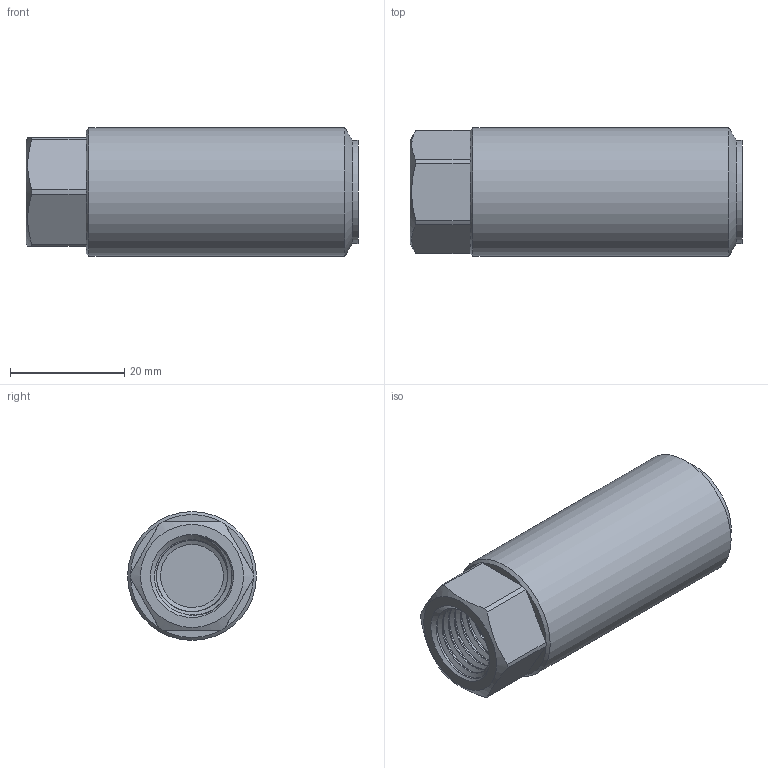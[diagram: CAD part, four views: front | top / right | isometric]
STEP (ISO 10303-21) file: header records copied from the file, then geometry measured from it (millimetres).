
FILE_DESCRIPTION(/* description */ (''),/* implementation_level */ '2;1');
FILE_NAME(/* name */ 'S6A管式单向阀.prt.stp',/* time_stamp */ '2022-03-30T19:14:09+08:00',/* author */ (''),/* organization */ (''),/* preprocessor_version */ 'ST-DEVELOPER v16.7',/* originating_system */ 'SIEMENS PLM Software NX 12.0',/* authorisation */ '');
FILE_SCHEMA (('AUTOMOTIVE_DESIGN { 1 0 10303 214 3 1 1 1 }'));
Length unit declared in the file: millimetre
Products named in the file (1): S6A管式单向阀
Bounding box: 58 x 22.5 x 22.5 mm (x, y, z)
Volume: 17526.7 mm3; surface area: 6569 mm2
Topology: 1 solids, 1 shells, 43 faces, 102 edges, 63 vertices
Faces by surface type: plane 18, cylinder 12, cone 7, bspline 6
Full cylindrical faces by diameter (mm): 18 x1, 22.5 x1
Entity records: 4610 total; most frequent: CARTESIAN_POINT 3722, ORIENTED_EDGE 174, DIRECTION 166, EDGE_CURVE 87, AXIS2_PLACEMENT_3D 71, VERTEX_POINT 57, EDGE_LOOP 54, ADVANCED_FACE 43
